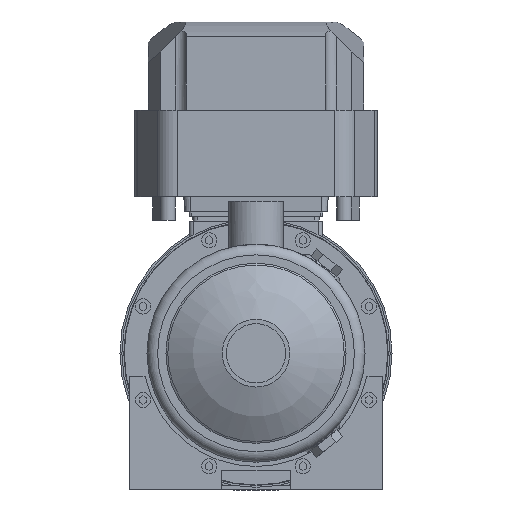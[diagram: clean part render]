
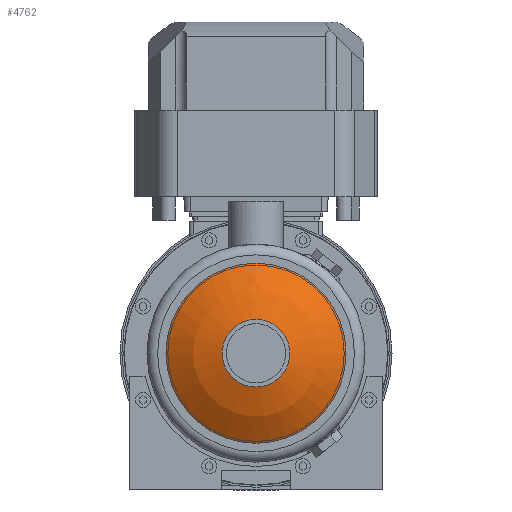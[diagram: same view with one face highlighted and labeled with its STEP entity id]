
A CAD part, left-side view. The second image highlights one B-rep face of the part: STEP entity #4762.
In plain terms, the highlighted spherical face has radius 100 mm.
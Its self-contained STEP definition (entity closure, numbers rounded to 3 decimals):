
#56=SPHERICAL_SURFACE('',#6169,100.);
#1129=ORIENTED_EDGE('',*,*,#2448,.T.);
#1130=ORIENTED_EDGE('',*,*,#2447,.F.);
#2447=EDGE_CURVE('',#3111,#3111,#3567,.T.);
#2448=EDGE_CURVE('',#3112,#3112,#3568,.T.);
#3111=VERTEX_POINT('',#8215);
#3112=VERTEX_POINT('',#8218);
#3567=CIRCLE('',#6168,22.25);
#3568=CIRCLE('',#6170,59.25);
#3758=EDGE_LOOP('',(#1129));
#3759=EDGE_LOOP('',(#1130));
#4169=FACE_BOUND('',#3758,.T.);
#4170=FACE_BOUND('',#3759,.T.);
#4762=ADVANCED_FACE('',(#4169,#4170),#56,.T.);
#6168=AXIS2_PLACEMENT_3D('',#8214,#6708,#6709);
#6169=AXIS2_PLACEMENT_3D('',#8216,#6710,#6711);
#6170=AXIS2_PLACEMENT_3D('',#8217,#6712,#6713);
#6708=DIRECTION('',(-1.,0.,0.));
#6709=DIRECTION('',(0.,0.,1.));
#6710=DIRECTION('',(-1.,0.,0.));
#6711=DIRECTION('',(0.,0.,1.));
#6712=DIRECTION('',(-1.,0.,0.));
#6713=DIRECTION('',(0.,0.,1.));
#8214=CARTESIAN_POINT('',(-91.293,0.,0.));
#8215=CARTESIAN_POINT('',(-91.293,0.,22.25));
#8216=CARTESIAN_POINT('',(6.2,0.,0.));
#8217=CARTESIAN_POINT('',(-74.357,0.,0.));
#8218=CARTESIAN_POINT('',(-74.357,0.,59.25));
